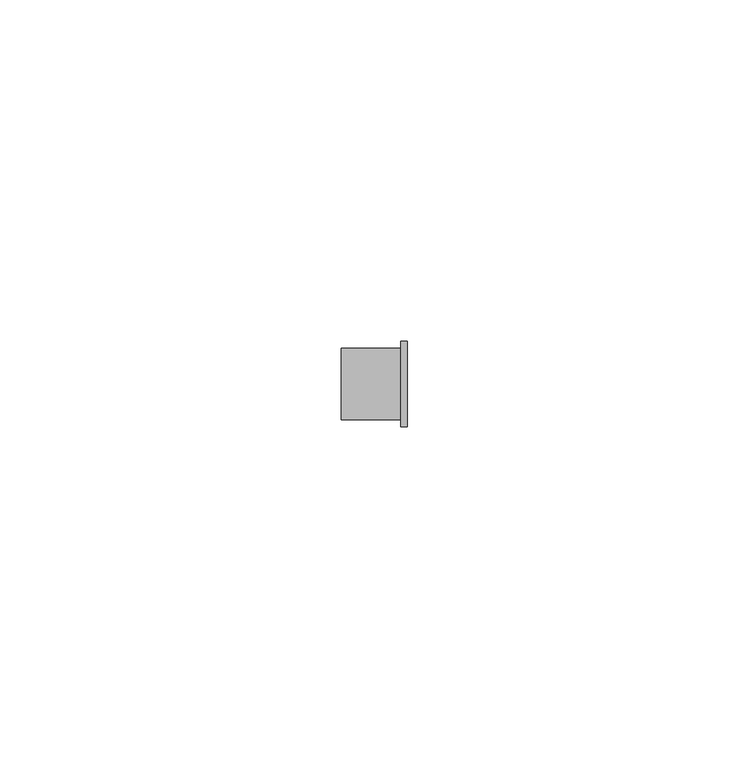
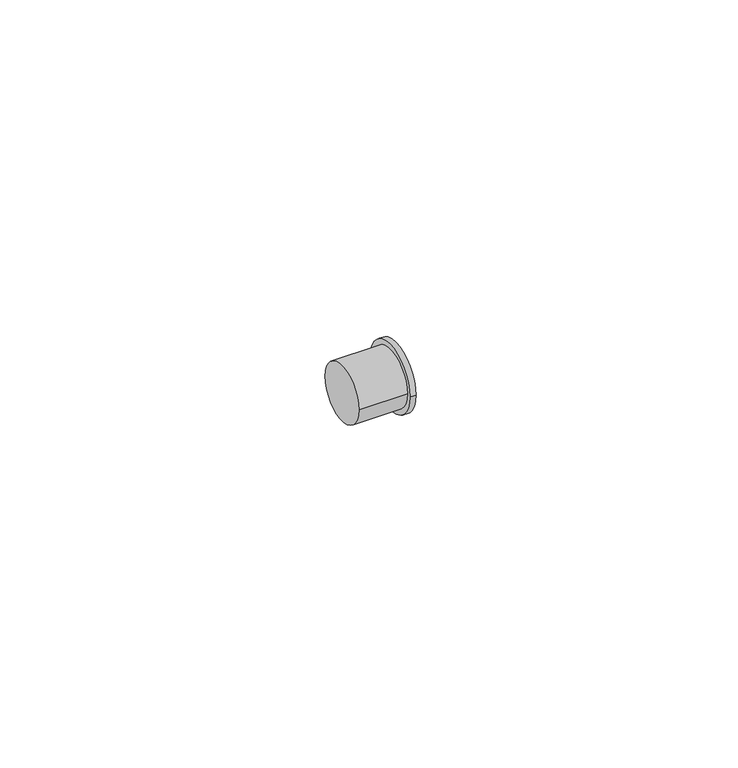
"""IFC4 building model written with IfcOpenShell, lengths in millimetres: pipe fitting geometry, Bucha de redução reta - Soldada - CU : Padrão."""

from ifc_helpers import new_model, si_unit, frame, origin, place, context, project, spatial, circle_curve, source, transform, mapped, element, save
from ifc_brep_helpers import plane_surface, cylinder_surface, advanced_brep


def pipe_fitting_af483176(model_context):
    return source(origin(), model_context, "Body", "AdvancedBrep", [
        advanced_brep(
        [(0.0, -5.2552, 0.0), (0.0, 5.2552, 0.0), (8.6744, -5.2552, 0.0), (8.6744, 5.2552, 0.0), (9.6744, -6.25, 0.0), (9.6744, 6.25, 0.0), (8.6744, 6.25, 0.0), (8.6744, -6.25, 0.0)],
        [
            (0, 1, circle_curve(frame((0.0, 0.0, 0.0), z_axis=(-1.0, 0.0, 0.0), x_axis=(0.0, 1.0, 0.0)), 5.2552)),
            (1, 0, circle_curve(frame((0.0, 0.0, 0.0), z_axis=(-1.0, 0.0, 0.0), x_axis=(0.0, 1.0, 0.0)), 5.2552)),
            (0, 2),
            (2, 3, circle_curve(frame((8.6744, 0.0, 0.0), z_axis=(-1.0, 0.0, 0.0), x_axis=(0.0, 1.0, 0.0)), 5.2552)),
            (3, 1),
            (3, 2, circle_curve(frame((8.6744, 0.0, 0.0), z_axis=(-1.0, 0.0, 0.0), x_axis=(0.0, 1.0, 0.0)), 5.2552)),
            (4, 5, circle_curve(frame((9.6744, 0.0, 0.0), z_axis=(1.0, 0.0, 0.0), x_axis=(0.0, 1.0, 0.0)), 6.25)),
            (5, 4, circle_curve(frame((9.6744, 0.0, 0.0), z_axis=(1.0, 0.0, 0.0), x_axis=(0.0, 1.0, 0.0)), 6.25)),
            (6, 7, circle_curve(frame((8.6744, 0.0, 0.0), z_axis=(1.0, 0.0, 0.0), x_axis=(0.0, 1.0, 0.0)), 6.25)),
            (7, 4),
            (5, 6),
            (7, 6, circle_curve(frame((8.6744, 0.0, 0.0), z_axis=(1.0, 0.0, 0.0), x_axis=(0.0, 1.0, 0.0)), 6.25)),
        ],
        [
            plane_surface(frame((0.0, 0.0, 0.0), z_axis=(-1.0, 0.0, 0.0), x_axis=(0.0, 0.0, 1.0))),
            cylinder_surface(frame((0.0, 0.0, 0.0), z_axis=(-1.0, 0.0, 0.0), x_axis=(0.0, 1.0, 0.0)), 5.2552),
            plane_surface(frame((9.6744, 0.0, 0.0), z_axis=(1.0, 0.0, 0.0), x_axis=(0.0, 0.0, 1.0))),
            cylinder_surface(frame((8.6744, 0.0, 0.0), z_axis=(-1.0, 0.0, 0.0), x_axis=(0.0, 1.0, 0.0)), 6.25),
            plane_surface(frame((8.6744, 0.0, 0.0), z_axis=(-1.0, 0.0, 0.0), x_axis=(0.0, 0.0, 1.0))),
        ],
        [
            (0, [[1, 2]]),
            (1, [[-1, 3, 4, 5]]),
            (1, [[-2, -5, 6, -3]]),
            (2, [[7, 8]]),
            (3, [[9, 10, -8, 11]]),
            (3, [[12, -11, -7, -10]]),
            (4, [[-9, -12], [-4, -6]]),
        ],
    ),
    ])


if __name__ == "__main__":
    model = new_model("IFC4")
    model_context = context("Model", 3, world=origin())
    ifc_project = project(units=[si_unit("LENGTHUNIT", "METRE", prefix="MILLI")], contexts=[model_context])
    site = spatial("IfcSite", under=ifc_project)
    building = spatial("IfcBuilding", under=site)
    placement = place(None, origin())
    pipe_fitting_shape = pipe_fitting_af483176(model_context)
    element("IfcPipeFitting", 1, ObjectType="Bucha de redução reta - Soldada - CU : Padrão", at=placement, inside=building, context=model_context, shape_type="MappedRepresentation", body=[
        mapped(pipe_fitting_shape, transform((0.0, 0.0, 0.0), x_axis=(1.0, 0.0, 0.0), y_axis=(0.0, 1.0, 0.0), z_axis=(0.0, 0.0, 1.0))),
    ])
    save(model, "model.ifc")
